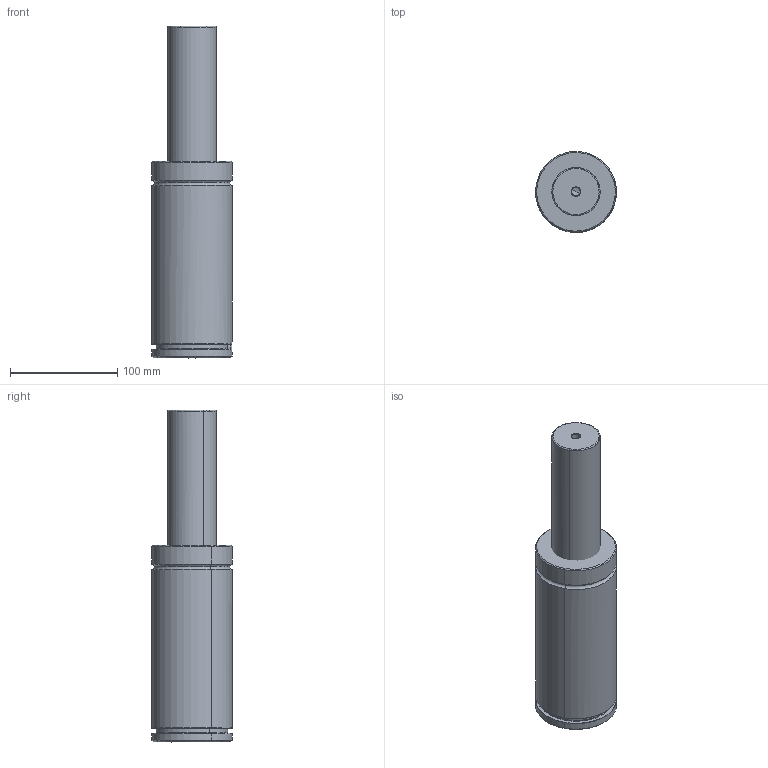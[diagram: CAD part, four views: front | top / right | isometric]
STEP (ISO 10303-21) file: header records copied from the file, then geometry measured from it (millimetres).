
FILE_DESCRIPTION(('CATIA V5 STEP Exchange'),'2;1');
FILE_NAME('W:\CATALOGO GENERAL 2018\FICHEROS CAD\001-MICRO\MICRO 75CF\MICRO 75CFx125.stp','2017-10-27T08:24:39+00:00',('none'),('none'),'CATIA Version 5 Release 17 (IN-10)','CATIA V5 STEP AP203','none');
FILE_SCHEMA(('CONFIG_CONTROL_DESIGN'));
Length unit declared in the file: millimetre
Products named in the file (1): MICRO 75CFx125
Assembly tree (3 placements, depth 2):
  MICRO 75CFx125
    #56
    #1318
    #3518
Bounding box: 75.19 x 75.18 x 309 mm (x, y, z)
Volume: 949681.3 mm3; surface area: 95681.8 mm2
Topology: 3 solids, 3 shells, 189 faces, 408 edges, 228 vertices
Faces by surface type: torus 67, cone 60, cylinder 39, plane 23
Entity records: 5761 total; most frequent: CARTESIAN_POINT 1862, ORIENTED_EDGE 796, DIRECTION 697, EDGE_CURVE 398, AXIS2_PLACEMENT_3D 395, VERTEX_POINT 228, CIRCLE 207, EDGE_LOOP 202
